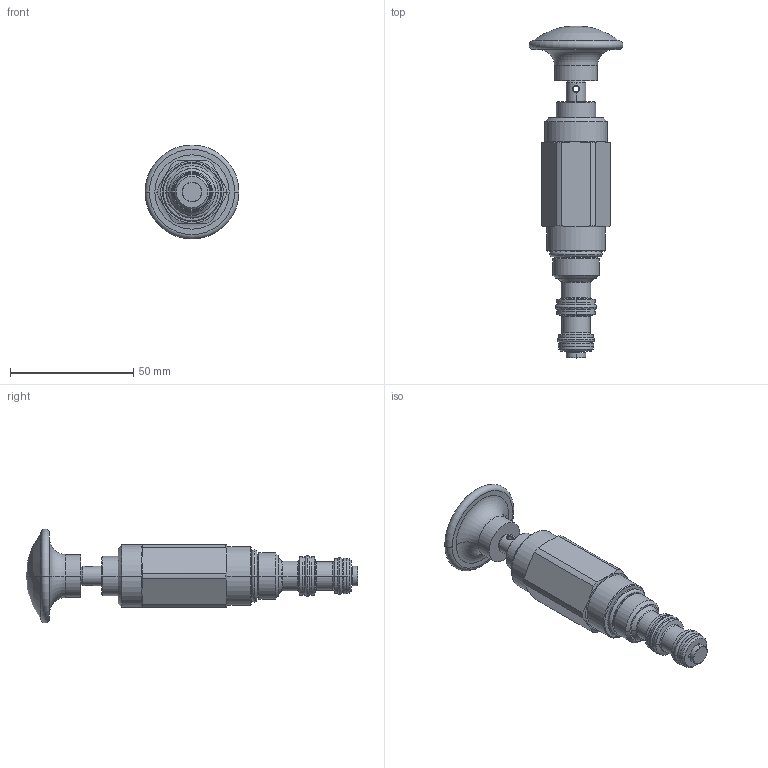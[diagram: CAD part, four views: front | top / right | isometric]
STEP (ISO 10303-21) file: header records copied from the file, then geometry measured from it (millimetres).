
FILE_DESCRIPTION((''),'2;1');
FILE_NAME('5270300_SW0002','2009-02-04T',('jcs'),(''),'PRO/ENGINEER BY PARAMETRIC TECHNOLOGY CORPORATION, 2008010','PRO/ENGINEER BY PARAMETRIC TECHNOLOGY CORPORATION, 2008010','');
FILE_SCHEMA(('CONFIG_CONTROL_DESIGN'));
Length unit declared in the file: inch
Products named in the file (1): 5270300_SW0002
Bounding box: 38.1 x 134.65 x 38.1 mm (x, y, z)
Volume: 47700.1 mm3; surface area: 12832.4 mm2
Topology: 4 solids, 4 shells, 169 faces, 367 edges, 215 vertices
Faces by surface type: cylinder 48, cone 39, plane 32, torus 24, revolution 24, sphere 2
Entity records: 5215 total; most frequent: CARTESIAN_POINT 1409, DIRECTION 851, ORIENTED_EDGE 730, EDGE_CURVE 365, AXIS2_PLACEMENT_3D 363, CIRCLE 218, VERTEX_POINT 215, EDGE_LOOP 188
